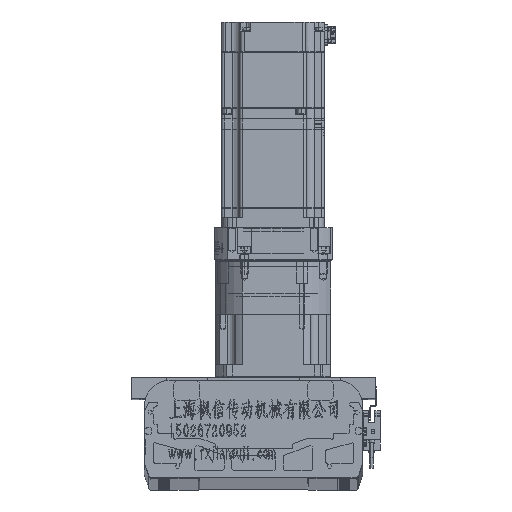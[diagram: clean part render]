
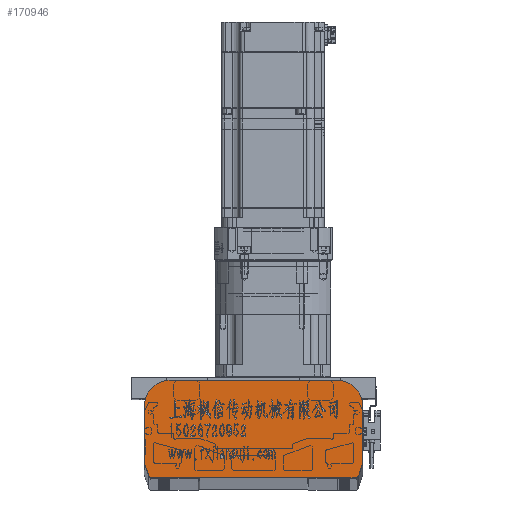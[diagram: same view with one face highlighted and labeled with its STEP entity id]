
A CAD part, top view. The second image highlights one B-rep face of the part: STEP entity #170946.
In plain terms, the highlighted planar face has unit normal (0, 0, 1).
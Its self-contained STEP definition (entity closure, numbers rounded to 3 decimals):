
#1552 = CARTESIAN_POINT ( 'NONE',  ( -203.382, 161.037, 5142. ) ) ;
#1992 = EDGE_CURVE ( 'NONE', #33595, #34253, #159468, .T. ) ;
#2022 = CARTESIAN_POINT ( 'NONE',  ( -351.382, 205.211, 5142. ) ) ;
#2370 = EDGE_CURVE ( 'NONE', #158770, #88598, #20237, .T. ) ;
#3044 = CARTESIAN_POINT ( 'NONE',  ( -201.382, 205.211, 5142. ) ) ;
#7008 = CARTESIAN_POINT ( 'NONE',  ( -366.095, 149.211, 5142. ) ) ;
#7238 = CARTESIAN_POINT ( 'NONE',  ( -371.382, 205.211, 5142. ) ) ;
#11623 = AXIS2_PLACEMENT_3D ( 'NONE', #1552, #43213, #81429 ) ;
#15430 = ORIENTED_EDGE ( 'NONE', *, *, #76063, .T. ) ;
#18168 = DIRECTION ( 'NONE',  ( 1., 0., 0. ) ) ;
#18667 = AXIS2_PLACEMENT_3D ( 'NONE', #69237, #30160, #95618 ) ;
#19759 = CARTESIAN_POINT ( 'NONE',  ( -371.279, 160.402, 5142. ) ) ;
#20237 = CIRCLE ( 'NONE', #11623, 2. ) ;
#21102 = ORIENTED_EDGE ( 'NONE', *, *, #162074, .T. ) ;
#24112 = EDGE_CURVE ( 'NONE', #88598, #123010, #176258, .T. ) ;
#26707 = AXIS2_PLACEMENT_3D ( 'NONE', #142531, #104340, #18168 ) ;
#28669 = EDGE_CURVE ( 'NONE', #123010, #115149, #56384, .T. ) ;
#30160 = DIRECTION ( 'NONE',  ( 0., 0., 1. ) ) ;
#33595 = VERTEX_POINT ( 'NONE', #39778 ) ;
#34253 = VERTEX_POINT ( 'NONE', #7008 ) ;
#34654 = DIRECTION ( 'NONE',  ( 0., 1., 0. ) ) ;
#35204 = VECTOR ( 'NONE', #146051, 1000. ) ;
#35224 = EDGE_CURVE ( 'NONE', #47860, #33595, #90530, .T. ) ;
#37570 = CARTESIAN_POINT ( 'NONE',  ( -206.67, 149.211, 5142. ) ) ;
#38854 = LINE ( 'NONE', #90677, #35204 ) ;
#39778 = CARTESIAN_POINT ( 'NONE',  ( -367.991, 150.577, 5142. ) ) ;
#43127 = ORIENTED_EDGE ( 'NONE', *, *, #162626, .T. ) ;
#43213 = DIRECTION ( 'NONE',  ( 0., 0., 1. ) ) ;
#43538 = VECTOR ( 'NONE', #47461, 1000. ) ;
#43886 = EDGE_CURVE ( 'NONE', #178028, #64284, #81786, .T. ) ;
#47461 = DIRECTION ( 'NONE',  ( 0.317, 0.948, 0. ) ) ;
#47860 = VERTEX_POINT ( 'NONE', #19759 ) ;
#49271 = LINE ( 'NONE', #156502, #154722 ) ;
#51575 = ORIENTED_EDGE ( 'NONE', *, *, #134899, .T. ) ;
#56384 = CIRCLE ( 'NONE', #18667, 20. ) ;
#57285 = DIRECTION ( 'NONE',  ( 0., 0., 1. ) ) ;
#59839 = ORIENTED_EDGE ( 'NONE', *, *, #43886, .T. ) ;
#60038 = AXIS2_PLACEMENT_3D ( 'NONE', #117936, #134245, #107019 ) ;
#64284 = VERTEX_POINT ( 'NONE', #158745 ) ;
#69237 = CARTESIAN_POINT ( 'NONE',  ( -221.382, 205.211, 5142. ) ) ;
#76063 = EDGE_CURVE ( 'NONE', #34253, #178028, #49271, .T. ) ;
#76354 = ORIENTED_EDGE ( 'NONE', *, *, #133366, .T. ) ;
#78521 = VECTOR ( 'NONE', #118305, 1000. ) ;
#81429 = DIRECTION ( 'NONE',  ( 1., 0., 0. ) ) ;
#81786 = CIRCLE ( 'NONE', #26707, 2. ) ;
#85703 = VERTEX_POINT ( 'NONE', #178003 ) ;
#88403 = LINE ( 'NONE', #131898, #78521 ) ;
#88598 = VERTEX_POINT ( 'NONE', #124169 ) ;
#90530 = LINE ( 'NONE', #134945, #150986 ) ;
#90677 = CARTESIAN_POINT ( 'NONE',  ( -201.382, 225.211, 5142. ) ) ;
#92520 = VECTOR ( 'NONE', #34654, 1000. ) ;
#94428 = EDGE_CURVE ( 'NONE', #64284, #158770, #160934, .T. ) ;
#94846 = CARTESIAN_POINT ( 'NONE',  ( -369.382, 161.037, 5142. ) ) ;
#95618 = DIRECTION ( 'NONE',  ( 1., 0., 0. ) ) ;
#96180 = CARTESIAN_POINT ( 'NONE',  ( -366.095, 151.211, 5142. ) ) ;
#101551 = ORIENTED_EDGE ( 'NONE', *, *, #1992, .T. ) ;
#103723 = CARTESIAN_POINT ( 'NONE',  ( -205.23, 149.211, 5142. ) ) ;
#103749 = DIRECTION ( 'NONE',  ( 1., 0., 0. ) ) ;
#104340 = DIRECTION ( 'NONE',  ( 0., 0., 1. ) ) ;
#107019 = DIRECTION ( 'NONE',  ( 1., 0., 0. ) ) ;
#113548 = DIRECTION ( 'NONE',  ( 1., 0., 0. ) ) ;
#115149 = VERTEX_POINT ( 'NONE', #123362 ) ;
#117639 = ORIENTED_EDGE ( 'NONE', *, *, #24112, .T. ) ;
#117936 = CARTESIAN_POINT ( 'NONE',  ( 0., 0., 5142. ) ) ;
#118305 = DIRECTION ( 'NONE',  ( 0., -1., 0. ) ) ;
#119450 = CIRCLE ( 'NONE', #139803, 2. ) ;
#119699 = EDGE_LOOP ( 'NONE', ( #76354, #43127, #51575, #21102, #160530, #101551, #15430, #59839, #151118, #129222, #117639, #173693 ) ) ;
#123010 = VERTEX_POINT ( 'NONE', #3044 ) ;
#123362 = CARTESIAN_POINT ( 'NONE',  ( -221.382, 225.211, 5142. ) ) ;
#124169 = CARTESIAN_POINT ( 'NONE',  ( -201.382, 161.037, 5142. ) ) ;
#127547 = AXIS2_PLACEMENT_3D ( 'NONE', #96180, #178770, #140563 ) ;
#129222 = ORIENTED_EDGE ( 'NONE', *, *, #2370, .T. ) ;
#131772 = CARTESIAN_POINT ( 'NONE',  ( -201.382, 160.711, 5142. ) ) ;
#131898 = CARTESIAN_POINT ( 'NONE',  ( -371.382, 225.211, 5142. ) ) ;
#133342 = PLANE ( 'NONE',  #60038 ) ;
#133366 = EDGE_CURVE ( 'NONE', #115149, #163539, #38854, .T. ) ;
#134245 = DIRECTION ( 'NONE',  ( 0., 0., 1. ) ) ;
#134899 = EDGE_CURVE ( 'NONE', #165850, #85703, #88403, .T. ) ;
#134945 = CARTESIAN_POINT ( 'NONE',  ( -371.382, 160.711, 5142. ) ) ;
#135635 = DIRECTION ( 'NONE',  ( 0., 0., 1. ) ) ;
#139803 = AXIS2_PLACEMENT_3D ( 'NONE', #94846, #135635, #151104 ) ;
#140563 = DIRECTION ( 'NONE',  ( 1., 0., 0. ) ) ;
#142531 = CARTESIAN_POINT ( 'NONE',  ( -206.67, 151.211, 5142. ) ) ;
#146051 = DIRECTION ( 'NONE',  ( -1., 0., 0. ) ) ;
#147694 = DIRECTION ( 'NONE',  ( 0.317, -0.948, 0. ) ) ;
#148651 = CIRCLE ( 'NONE', #157335, 20. ) ;
#150986 = VECTOR ( 'NONE', #147694, 1000. ) ;
#151104 = DIRECTION ( 'NONE',  ( 1., 0., 0. ) ) ;
#151118 = ORIENTED_EDGE ( 'NONE', *, *, #94428, .T. ) ;
#154722 = VECTOR ( 'NONE', #103749, 1000. ) ;
#156502 = CARTESIAN_POINT ( 'NONE',  ( -367.535, 149.211, 5142. ) ) ;
#157335 = AXIS2_PLACEMENT_3D ( 'NONE', #2022, #57285, #113548 ) ;
#158745 = CARTESIAN_POINT ( 'NONE',  ( -204.773, 150.577, 5142. ) ) ;
#158770 = VERTEX_POINT ( 'NONE', #170427 ) ;
#159468 = CIRCLE ( 'NONE', #127547, 2. ) ;
#160530 = ORIENTED_EDGE ( 'NONE', *, *, #35224, .T. ) ;
#160934 = LINE ( 'NONE', #103723, #43538 ) ;
#162074 = EDGE_CURVE ( 'NONE', #85703, #47860, #119450, .T. ) ;
#162626 = EDGE_CURVE ( 'NONE', #163539, #165850, #148651, .T. ) ;
#163539 = VERTEX_POINT ( 'NONE', #170069 ) ;
#165850 = VERTEX_POINT ( 'NONE', #7238 ) ;
#170069 = CARTESIAN_POINT ( 'NONE',  ( -351.382, 225.211, 5142. ) ) ;
#170427 = CARTESIAN_POINT ( 'NONE',  ( -201.486, 160.402, 5142. ) ) ;
#170946 = ADVANCED_FACE ( 'NONE', ( #175134 ), #133342, .T. ) ;
#173693 = ORIENTED_EDGE ( 'NONE', *, *, #28669, .T. ) ;
#175134 = FACE_OUTER_BOUND ( 'NONE', #119699, .T. ) ;
#176258 = LINE ( 'NONE', #131772, #92520 ) ;
#178003 = CARTESIAN_POINT ( 'NONE',  ( -371.382, 161.037, 5142. ) ) ;
#178028 = VERTEX_POINT ( 'NONE', #37570 ) ;
#178770 = DIRECTION ( 'NONE',  ( 0., 0., 1. ) ) ;
